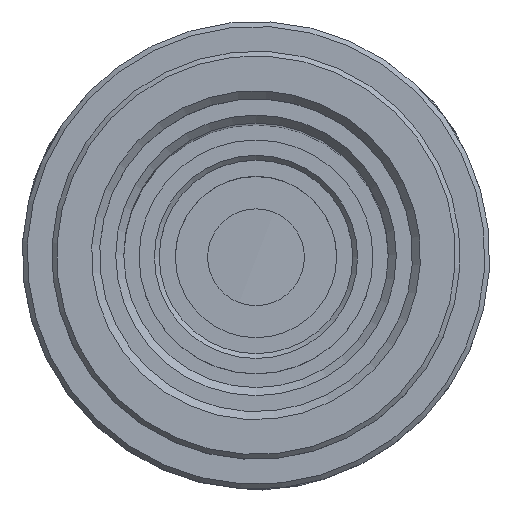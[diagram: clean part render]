
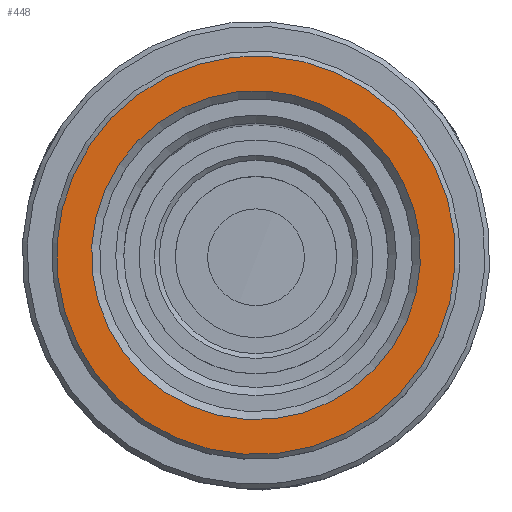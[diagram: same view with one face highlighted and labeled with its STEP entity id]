
A CAD part, top view. The second image highlights one B-rep face of the part: STEP entity #448.
In plain terms, the highlighted planar face has unit normal (0, 0, 1).
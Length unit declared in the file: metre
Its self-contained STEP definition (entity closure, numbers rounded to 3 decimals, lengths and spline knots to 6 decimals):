
#448=ADVANCED_FACE('NONE',(#1033,#1034),#1035,.F.);
#1033=FACE_BOUND('',#1870,.T.);
#1034=FACE_OUTER_BOUND('',#1871,.T.);
#1035=PLANE('',#1872);
#1870=EDGE_LOOP('',(#2963));
#1871=EDGE_LOOP('',(#2964));
#1872=AXIS2_PLACEMENT_3D('',#2965,#2966,#2967);
#2963=ORIENTED_EDGE('',*,*,#3725,.T.);
#2964=ORIENTED_EDGE('',*,*,#3723,.T.);
#2965=CARTESIAN_POINT('',(-0.00141,0.012581,0.0696));
#2966=DIRECTION('',(0.,0.,-1.0));
#2967=DIRECTION('',(-1.0,0.0,0.));
#3723=EDGE_CURVE('NONE',#4306,#4306,#4307,.T.);
#3725=EDGE_CURVE('NONE',#4309,#4309,#4310,.T.);
#4306=VERTEX_POINT('',#5389);
#4307=CIRCLE('',#5390,0.01236);
#4309=VERTEX_POINT('',#5392);
#4310=CIRCLE('',#5393,0.0102);
#5389=CARTESIAN_POINT('',(-0.012283,-0.001376,0.0696));
#5390=AXIS2_PLACEMENT_3D('',#6065,#6066,#6067);
#5392=CARTESIAN_POINT('',(-0.010137,-0.001136,0.0696));
#5393=AXIS2_PLACEMENT_3D('',#6068,#6069,#6070);
#6065=CARTESIAN_POINT('',(0.,0.,0.0696));
#6066=DIRECTION('',(0.,0.,1.0));
#6067=DIRECTION('',(-0.994,-0.111,0.));
#6068=CARTESIAN_POINT('',(0.,0.,0.0696));
#6069=DIRECTION('',(0.,0.,-1.0));
#6070=DIRECTION('',(-0.994,-0.111,0.));
